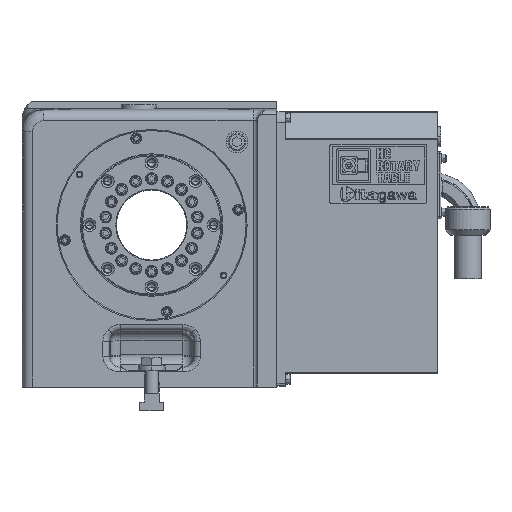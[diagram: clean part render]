
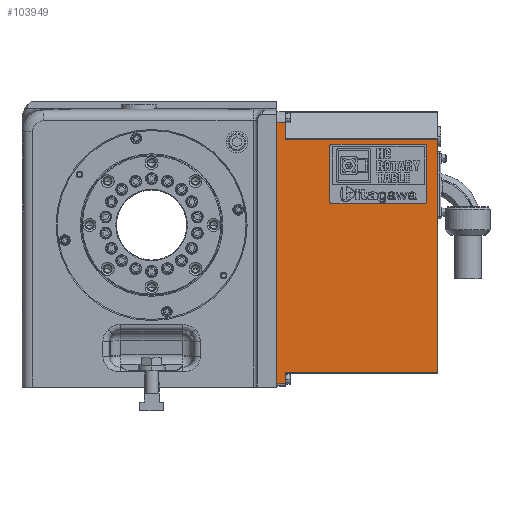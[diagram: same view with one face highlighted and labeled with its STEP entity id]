
A CAD part, top view. The second image highlights one B-rep face of the part: STEP entity #103949.
In plain terms, the highlighted planar face has unit normal (0, 0, 1) as drawn and (1, 0, 0) by its records, which use the part's own axes.
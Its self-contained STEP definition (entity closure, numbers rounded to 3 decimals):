
#3735 = DIRECTION ( 'NONE',  ( 0., -1., 0. ) ) ;
#7282 = DIRECTION ( 'NONE',  ( 0., 0., -1. ) ) ;
#7788 = LINE ( 'NONE', #92811, #72171 ) ;
#10590 = LINE ( 'NONE', #88395, #103839 ) ;
#10661 = LINE ( 'NONE', #66383, #101116 ) ;
#14329 = EDGE_CURVE ( 'NONE', #32976, #68935, #15728, .T. ) ;
#14549 = EDGE_CURVE ( 'NONE', #32976, #24255, #88147, .T. ) ;
#15104 = DIRECTION ( 'NONE',  ( 0., 0., 1. ) ) ;
#15728 = LINE ( 'NONE', #59728, #36175 ) ;
#18500 = CARTESIAN_POINT ( 'NONE',  ( 0., 12., 0. ) ) ;
#20487 = DIRECTION ( 'NONE',  ( 0., 1., 0. ) ) ;
#21767 = CARTESIAN_POINT ( 'NONE',  ( 0., 2., 8. ) ) ;
#24255 = VERTEX_POINT ( 'NONE', #89609 ) ;
#26689 = CARTESIAN_POINT ( 'NONE',  ( 0., 229., -141. ) ) ;
#28240 = AXIS2_PLACEMENT_3D ( 'NONE', #108656, #56165, #3735 ) ;
#28910 = CARTESIAN_POINT ( 'NONE',  ( 0., 0., 0. ) ) ;
#32976 = VERTEX_POINT ( 'NONE', #21767 ) ;
#33985 = EDGE_LOOP ( 'NONE', ( #66840, #78156, #77739, #40398, #107484, #51386, #42032, #91846 ) ) ;
#35480 = DIRECTION ( 'NONE',  ( 0., -1., 0. ) ) ;
#36175 = VECTOR ( 'NONE', #7282, 1000. ) ;
#38855 = CARTESIAN_POINT ( 'NONE',  ( 0., 228.172, -141. ) ) ;
#40398 = ORIENTED_EDGE ( 'NONE', *, *, #62525, .T. ) ;
#42032 = ORIENTED_EDGE ( 'NONE', *, *, #66222, .T. ) ;
#46357 = CARTESIAN_POINT ( 'NONE',  ( 0., 12., -141. ) ) ;
#47358 = PLANE ( 'NONE',  #28240 ) ;
#48003 = FACE_OUTER_BOUND ( 'NONE', #33985, .T. ) ;
#48717 = VERTEX_POINT ( 'NONE', #18500 ) ;
#51386 = ORIENTED_EDGE ( 'NONE', *, *, #14329, .T. ) ;
#56165 = DIRECTION ( 'NONE',  ( -1., 0., 0. ) ) ;
#57067 = DIRECTION ( 'NONE',  ( 0., 0., 1. ) ) ;
#57718 = VERTEX_POINT ( 'NONE', #59258 ) ;
#58088 = LINE ( 'NONE', #74723, #78628 ) ;
#59258 = CARTESIAN_POINT ( 'NONE',  ( 0., 244., 0. ) ) ;
#59331 = LINE ( 'NONE', #26689, #79820 ) ;
#59728 = CARTESIAN_POINT ( 'NONE',  ( 0., 2., 8. ) ) ;
#59811 = EDGE_CURVE ( 'NONE', #110591, #48717, #58088, .T. ) ;
#62167 = VECTOR ( 'NONE', #106422, 1000. ) ;
#62336 = CARTESIAN_POINT ( 'NONE',  ( 0., 228.172, 0. ) ) ;
#62525 = EDGE_CURVE ( 'NONE', #57718, #24255, #10661, .T. ) ;
#63484 = VERTEX_POINT ( 'NONE', #38855 ) ;
#65257 = EDGE_CURVE ( 'NONE', #89366, #57718, #100044, .T. ) ;
#66222 = EDGE_CURVE ( 'NONE', #68935, #48717, #10590, .T. ) ;
#66383 = CARTESIAN_POINT ( 'NONE',  ( 0., 244., 8. ) ) ;
#66840 = ORIENTED_EDGE ( 'NONE', *, *, #77790, .F. ) ;
#68935 = VERTEX_POINT ( 'NONE', #101458 ) ;
#71244 = DIRECTION ( 'NONE',  ( 0., 1., 0. ) ) ;
#72171 = VECTOR ( 'NONE', #15104, 1000. ) ;
#74723 = CARTESIAN_POINT ( 'NONE',  ( 0., 12., -141. ) ) ;
#77739 = ORIENTED_EDGE ( 'NONE', *, *, #65257, .T. ) ;
#77790 = EDGE_CURVE ( 'NONE', #63484, #110591, #59331, .T. ) ;
#78156 = ORIENTED_EDGE ( 'NONE', *, *, #98285, .T. ) ;
#78628 = VECTOR ( 'NONE', #57067, 1000. ) ;
#79820 = VECTOR ( 'NONE', #35480, 1000. ) ;
#88147 = LINE ( 'NONE', #97541, #62167 ) ;
#88395 = CARTESIAN_POINT ( 'NONE',  ( 0., 0., 0. ) ) ;
#89366 = VERTEX_POINT ( 'NONE', #62336 ) ;
#89609 = CARTESIAN_POINT ( 'NONE',  ( 0., 244., 8. ) ) ;
#91846 = ORIENTED_EDGE ( 'NONE', *, *, #59811, .F. ) ;
#92811 = CARTESIAN_POINT ( 'NONE',  ( 0., 228.172, 8. ) ) ;
#97265 = VECTOR ( 'NONE', #20487, 1000. ) ;
#97541 = CARTESIAN_POINT ( 'NONE',  ( 0., 0., 8. ) ) ;
#98285 = EDGE_CURVE ( 'NONE', #63484, #89366, #7788, .T. ) ;
#100044 = LINE ( 'NONE', #28910, #97265 ) ;
#101116 = VECTOR ( 'NONE', #101593, 1000. ) ;
#101458 = CARTESIAN_POINT ( 'NONE',  ( 0., 2., 0. ) ) ;
#101593 = DIRECTION ( 'NONE',  ( 0., 0., 1. ) ) ;
#103839 = VECTOR ( 'NONE', #71244, 1000. ) ;
#103949 = ADVANCED_FACE ( 'NONE', ( #48003 ), #47358, .F. ) ;
#106422 = DIRECTION ( 'NONE',  ( 0., 1., 0. ) ) ;
#107484 = ORIENTED_EDGE ( 'NONE', *, *, #14549, .F. ) ;
#108656 = CARTESIAN_POINT ( 'NONE',  ( 0., 0., 8. ) ) ;
#110591 = VERTEX_POINT ( 'NONE', #46357 ) ;
